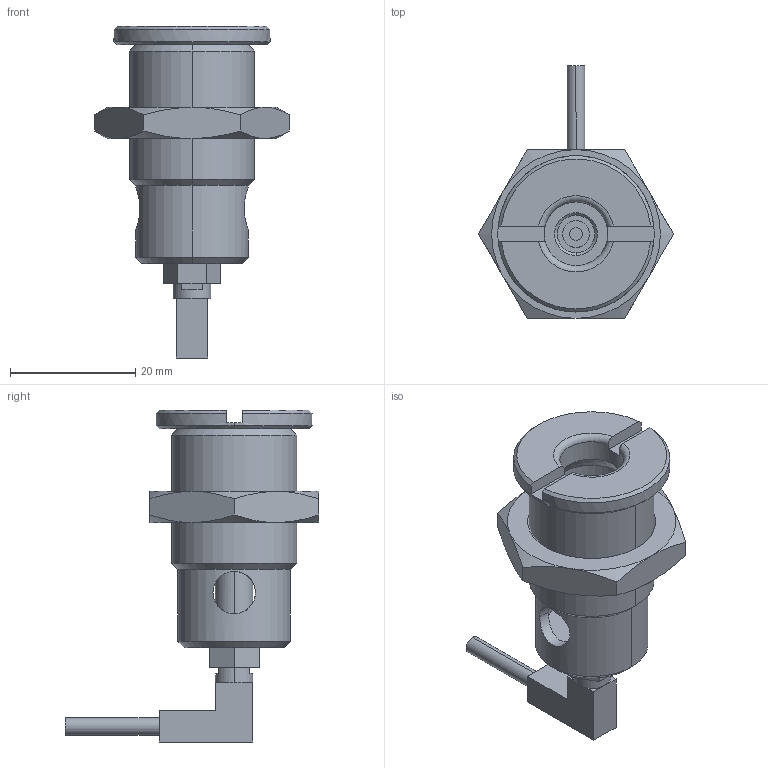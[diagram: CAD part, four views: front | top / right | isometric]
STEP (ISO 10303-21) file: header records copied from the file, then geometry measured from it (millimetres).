
FILE_DESCRIPTION (( 'STEP AP203' ), '1' );
FILE_NAME ('qcwe1034-m20-sl.STEP', '2023-04-07T01:56:10', ( '' ), ( '' ), 'SwSTEP 2.0', 'SolidWorks 2021', '' );
FILE_SCHEMA (( 'CONFIG_CONTROL_DESIGN' ));
Length unit declared in the file: millimetre
Products named in the file (4): qcwe1034-m20-sl_02_蹬怮椔; qcwe1034-m20-sl; qcwe1034-m20-sl_01_蹬怮椔; qcwe1034-m20-sl_03_蹬怮椔
Assembly tree (3 placements, depth 2):
  qcwe1034-m20-sl
    qcwe1034-m20-sl_01_蹬怮椔
    qcwe1034-m20-sl_02_蹬怮椔
    qcwe1034-m20-sl_03_蹬怮椔
Bounding box: 31.18 x 40.5 x 53.1 mm (x, y, z)
Volume: 9734.2 mm3; surface area: 7790.4 mm2
Topology: 3 solids, 4 shells, 130 faces, 294 edges, 180 vertices
Faces by surface type: plane 52, cone 38, cylinder 34, torus 6
Entity records: 4418 total; most frequent: CARTESIAN_POINT 1058, DIRECTION 650, ORIENTED_EDGE 588, EDGE_CURVE 294, AXIS2_PLACEMENT_3D 260, VERTEX_POINT 180, EDGE_LOOP 148, LINE 130
